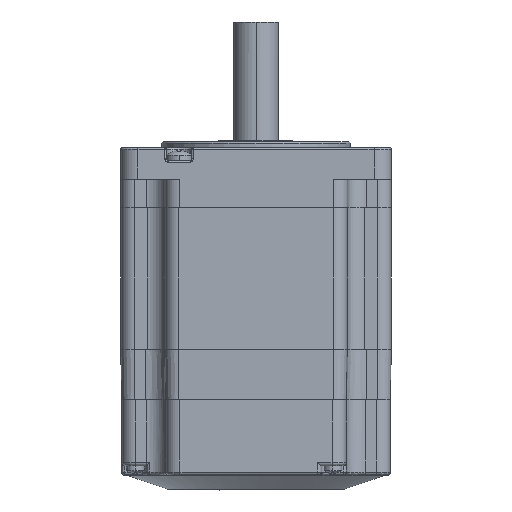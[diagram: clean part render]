
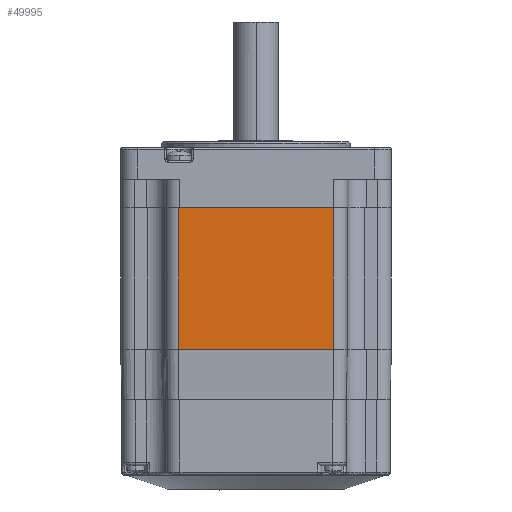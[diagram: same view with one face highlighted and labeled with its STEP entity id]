
A CAD part, front view. The second image highlights one B-rep face of the part: STEP entity #49995.
In plain terms, the highlighted planar face has unit normal (0, -1, 0).
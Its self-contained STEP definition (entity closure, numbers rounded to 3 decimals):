
#728 = EDGE_LOOP ( 'NONE', ( #12889, #10174, #24216, #13510 ) ) ;
#4748 = CARTESIAN_POINT ( 'NONE',  ( -43., -43., -45. ) ) ;
#8614 = CARTESIAN_POINT ( 'NONE',  ( -24.5, -43., -45. ) ) ;
#9605 = DIRECTION ( 'NONE',  ( 1., 0., 0. ) ) ;
#10174 = ORIENTED_EDGE ( 'NONE', *, *, #50108, .T. ) ;
#10469 = DIRECTION ( 'NONE',  ( 0., 0., -1. ) ) ;
#10985 = CARTESIAN_POINT ( 'NONE',  ( -24.5, -43., -45. ) ) ;
#12600 = EDGE_CURVE ( 'NONE', #35131, #24574, #52666, .T. ) ;
#12889 = ORIENTED_EDGE ( 'NONE', *, *, #49088, .T. ) ;
#13077 = LINE ( 'NONE', #29081, #61157 ) ;
#13510 = ORIENTED_EDGE ( 'NONE', *, *, #61247, .F. ) ;
#14779 = VERTEX_POINT ( 'NONE', #54498 ) ;
#18587 = CARTESIAN_POINT ( 'NONE',  ( 24.5, -43., -45. ) ) ;
#22767 = PLANE ( 'NONE',  #40455 ) ;
#23065 = VERTEX_POINT ( 'NONE', #38727 ) ;
#23185 = DIRECTION ( 'NONE',  ( 0., 0., -1. ) ) ;
#24200 = CARTESIAN_POINT ( 'NONE',  ( -24.5, -43., -45. ) ) ;
#24216 = ORIENTED_EDGE ( 'NONE', *, *, #12600, .T. ) ;
#24365 = FACE_OUTER_BOUND ( 'NONE', #728, .T. ) ;
#24574 = VERTEX_POINT ( 'NONE', #18587 ) ;
#27115 = VECTOR ( 'NONE', #9605, 1000. ) ;
#29081 = CARTESIAN_POINT ( 'NONE',  ( -24.5, -43., 0. ) ) ;
#35131 = VERTEX_POINT ( 'NONE', #10985 ) ;
#38727 = CARTESIAN_POINT ( 'NONE',  ( 24.5, -43., 0. ) ) ;
#39224 = CARTESIAN_POINT ( 'NONE',  ( 24.5, -43., -45. ) ) ;
#40455 = AXIS2_PLACEMENT_3D ( 'NONE', #8614, #51934, #23185 ) ;
#43448 = DIRECTION ( 'NONE',  ( 0., 0., -1. ) ) ;
#47501 = LINE ( 'NONE', #39224, #60273 ) ;
#49088 = EDGE_CURVE ( 'NONE', #23065, #14779, #13077, .T. ) ;
#49995 = ADVANCED_FACE ( 'NONE', ( #24365 ), #22767, .T. ) ;
#50108 = EDGE_CURVE ( 'NONE', #14779, #35131, #56630, .T. ) ;
#51934 = DIRECTION ( 'NONE',  ( 0., -1., 0. ) ) ;
#52666 = LINE ( 'NONE', #4748, #27115 ) ;
#53062 = DIRECTION ( 'NONE',  ( -1., 0., 0. ) ) ;
#54498 = CARTESIAN_POINT ( 'NONE',  ( -24.5, -43., 0. ) ) ;
#56630 = LINE ( 'NONE', #24200, #61168 ) ;
#60273 = VECTOR ( 'NONE', #10469, 1000. ) ;
#61157 = VECTOR ( 'NONE', #53062, 1000. ) ;
#61168 = VECTOR ( 'NONE', #43448, 1000. ) ;
#61247 = EDGE_CURVE ( 'NONE', #23065, #24574, #47501, .T. ) ;
